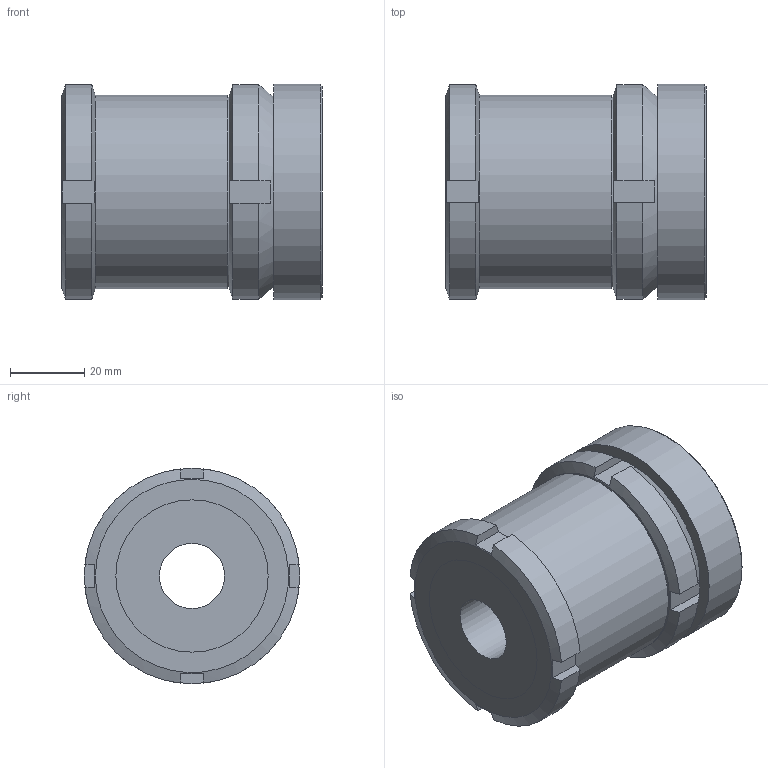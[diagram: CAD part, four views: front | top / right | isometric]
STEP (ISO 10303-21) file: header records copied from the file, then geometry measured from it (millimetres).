
FILE_DESCRIPTION( ( 'STEP AP203' ), '1' );
FILE_NAME( 'C:/Temp/Ganter_Step_05_03_2020/data/3_2/gn350_2/gn_350_2_ni/Stainless Steel-Levelling set GN 350.2-58-17,5-70-NI (0-0).stp', '2020-03-13T05:28:11', ( 'License CC BY-ND 4.0' ), ( 'CADENAS' ), ' ', 'PARTsolutions', ' ' );
FILE_SCHEMA( ( 'CONFIG_CONTROL_DESIGN' ) );
Length unit declared in the file: millimetre
Products named in the file (4): Stainless Steel-Levelling set GN 350.2-58-17,5-70-NI (0-0); _Levelling set GN 350.2-58-17,5-70-ST-G; _Levelling set GN 350.2-58-17,5-70-ST-K; _Levelling set GN 350.2-58-17,5-70-ST-P(0)
Assembly tree (3 placements, depth 2):
  Stainless Steel-Levelling set GN 350.2-58-17,5-70-NI (0-0)
    _Levelling set GN 350.2-58-17,5-70-ST-G
    _Levelling set GN 350.2-58-17,5-70-ST-K
    _Levelling set GN 350.2-58-17,5-70-ST-P(0)
Bounding box: 70 x 58 x 58 mm (x, y, z)
Volume: 142769.6 mm3; surface area: 40019.5 mm2
Topology: 3 solids, 3 shells, 62 faces, 149 edges, 99 vertices
Faces by surface type: plane 36, cylinder 19, cone 5, sphere 2
Full cylindrical faces by diameter (mm): 17.5 x1, 31.5 x1, 33.485 x1, 34.5 x1, 38.376 x1, 39 x1, 40 x1, 41 x2, 52 x1, 58 x1
Entity records: 1925 total; most frequent: CARTESIAN_POINT 462, DIRECTION 276, ORIENTED_EDGE 248, EDGE_CURVE 124, AXIS2_PLACEMENT_3D 122, EDGE_LOOP 92, VERTEX_POINT 92, FACE_OUTER_BOUND 75
